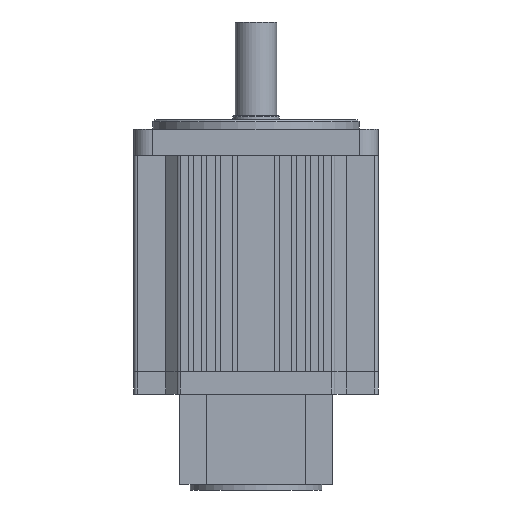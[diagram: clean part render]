
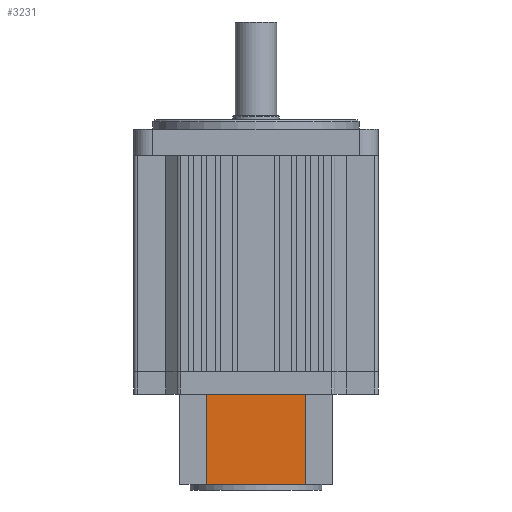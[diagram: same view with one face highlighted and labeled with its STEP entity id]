
A CAD part, front view. The second image highlights one B-rep face of the part: STEP entity #3231.
In plain terms, the highlighted planar face has unit normal (0, -1, 0).
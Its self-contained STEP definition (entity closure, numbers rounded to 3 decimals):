
#911 = CARTESIAN_POINT ( 'NONE',  ( 14., 0., 0. ) ) ;
#1098 = ORIENTED_EDGE ( 'NONE', *, *, #6349, .T. ) ;
#2521 = FACE_OUTER_BOUND ( 'NONE', #14699, .T. ) ;
#3231 = ADVANCED_FACE ( 'NONE', ( #2521 ), #12104, .T. ) ;
#3897 = VERTEX_POINT ( 'NONE', #13731 ) ;
#4458 = DIRECTION ( 'NONE',  ( 1., 0., 0. ) ) ;
#4937 = CARTESIAN_POINT ( 'NONE',  ( 14., 0., -48. ) ) ;
#5761 = VERTEX_POINT ( 'NONE', #14785 ) ;
#6311 = LINE ( 'NONE', #4937, #15469 ) ;
#6349 = EDGE_CURVE ( 'NONE', #3897, #13674, #13485, .T. ) ;
#6638 = CARTESIAN_POINT ( 'NONE',  ( 67., 0., 0. ) ) ;
#6994 = CARTESIAN_POINT ( 'NONE',  ( 14., 0., -48. ) ) ;
#7456 = ORIENTED_EDGE ( 'NONE', *, *, #9476, .F. ) ;
#7465 = LINE ( 'NONE', #6994, #16620 ) ;
#7669 = LINE ( 'NONE', #911, #14613 ) ;
#8137 = DIRECTION ( 'NONE',  ( 0., 0., 1. ) ) ;
#8468 = DIRECTION ( 'NONE',  ( 0., -1., 0. ) ) ;
#9461 = AXIS2_PLACEMENT_3D ( 'NONE', #10909, #8468, #4458 ) ;
#9476 = EDGE_CURVE ( 'NONE', #5761, #13674, #7669, .T. ) ;
#9647 = CARTESIAN_POINT ( 'NONE',  ( 67., 0., -48. ) ) ;
#10210 = ORIENTED_EDGE ( 'NONE', *, *, #14989, .F. ) ;
#10909 = CARTESIAN_POINT ( 'NONE',  ( 14., 0., -48. ) ) ;
#11491 = DIRECTION ( 'NONE',  ( 1., 0., 0. ) ) ;
#12104 = PLANE ( 'NONE',  #9461 ) ;
#12284 = CARTESIAN_POINT ( 'NONE',  ( 14., 0., -48. ) ) ;
#12675 = VECTOR ( 'NONE', #16240, 1000. ) ;
#13046 = EDGE_CURVE ( 'NONE', #14377, #3897, #6311, .T. ) ;
#13485 = LINE ( 'NONE', #9647, #12675 ) ;
#13674 = VERTEX_POINT ( 'NONE', #6638 ) ;
#13731 = CARTESIAN_POINT ( 'NONE',  ( 67., 0., -48. ) ) ;
#13879 = DIRECTION ( 'NONE',  ( 1., 0., 0. ) ) ;
#14377 = VERTEX_POINT ( 'NONE', #12284 ) ;
#14613 = VECTOR ( 'NONE', #13879, 1000. ) ;
#14699 = EDGE_LOOP ( 'NONE', ( #7456, #10210, #16155, #1098 ) ) ;
#14785 = CARTESIAN_POINT ( 'NONE',  ( 14., 0., 0. ) ) ;
#14989 = EDGE_CURVE ( 'NONE', #14377, #5761, #7465, .T. ) ;
#15469 = VECTOR ( 'NONE', #11491, 1000. ) ;
#16155 = ORIENTED_EDGE ( 'NONE', *, *, #13046, .T. ) ;
#16240 = DIRECTION ( 'NONE',  ( 0., 0., 1. ) ) ;
#16620 = VECTOR ( 'NONE', #8137, 1000. ) ;
